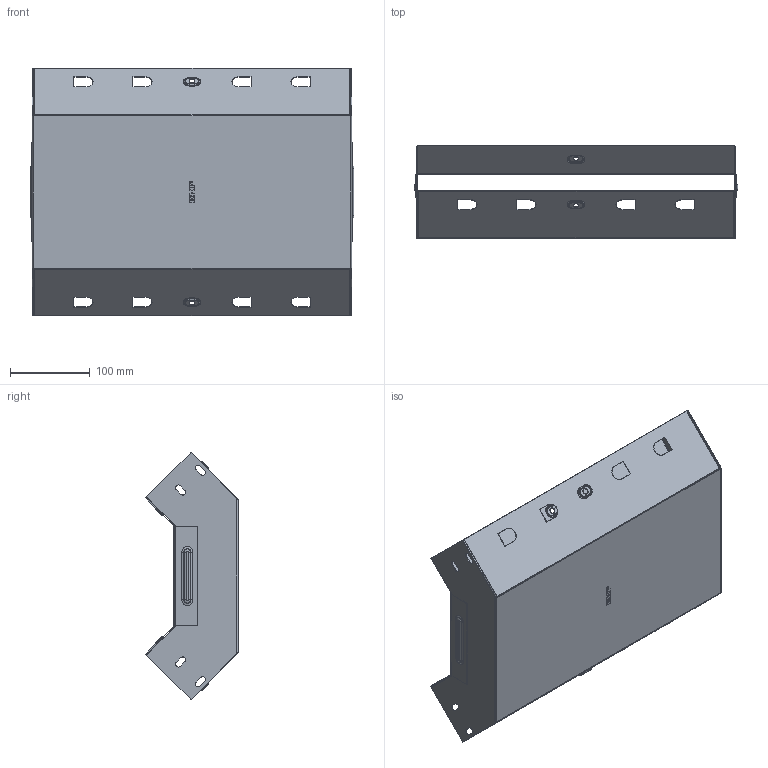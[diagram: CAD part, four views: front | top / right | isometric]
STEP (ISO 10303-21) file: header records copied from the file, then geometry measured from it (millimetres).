
FILE_DESCRIPTION (( 'STEP AP214' ), '1' );
FILE_NAME ('vi9080400_捘.STEP', '2019-06-10T09:23:09', ( '砐錪賧瘔蠈錪 Windows' ), ( '' ), 'SwSTEP 2.0', 'SolidWorks 2018', '' );
FILE_SCHEMA (( 'AUTOMOTIVE_DESIGN' ));
Length unit declared in the file: millimetre
Products named in the file (1): vi9080400_捘
Bounding box: 405.6 x 116.16 x 310.02 mm (x, y, z)
Volume: 225349.5 mm3; surface area: 567057.3 mm2
Topology: 2 solids, 2 shells, 468 faces, 1212 edges, 776 vertices
Faces by surface type: plane 254, cylinder 132, torus 64, bspline 18
Entity records: 15224 total; most frequent: CARTESIAN_POINT 3476, DIRECTION 2438, ORIENTED_EDGE 2424, EDGE_CURVE 1212, LINE 816, VECTOR 816, AXIS2_PLACEMENT_3D 811, VERTEX_POINT 776
